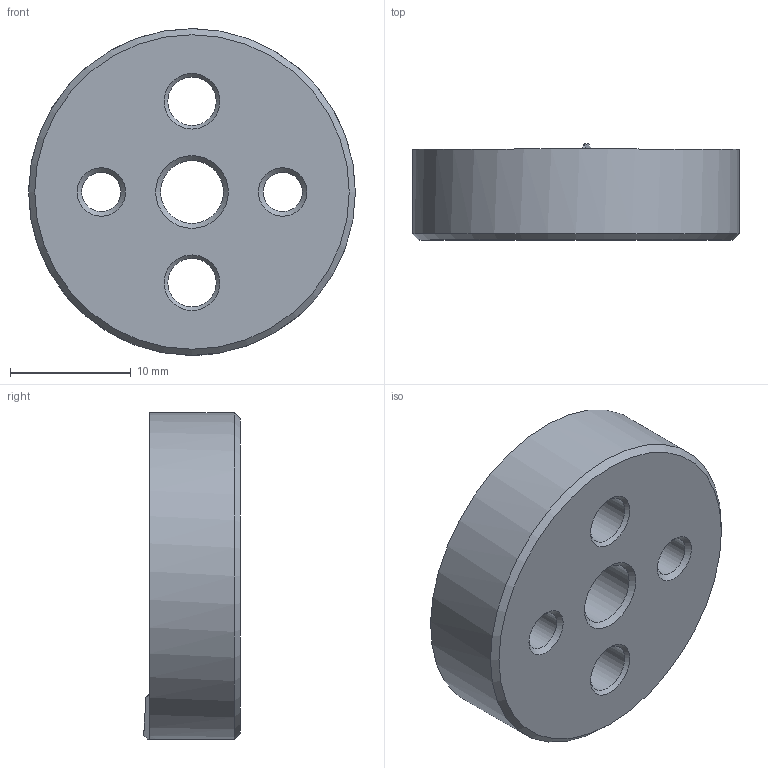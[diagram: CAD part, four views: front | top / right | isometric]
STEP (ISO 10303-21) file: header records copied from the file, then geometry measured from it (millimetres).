
FILE_DESCRIPTION( ( 'STEP AP203' ), '1' );
FILE_NAME( 'C:/Temp/Ganter_Step_05_03_2020/data/3_2/gn187_4/gn187_4_st/Serrated locking plate GN 187.4-27-48-D-ST.stp', '2020-03-13T05:25:46', ( 'License CC BY-ND 4.0' ), ( 'CADENAS' ), ' ', 'PARTsolutions', ' ' );
FILE_SCHEMA( ( 'CONFIG_CONTROL_DESIGN' ) );
Length unit declared in the file: millimetre
Products named in the file (1): _Serrated locking plate GN 187.4-27-48-D-ST
Bounding box: 27 x 7.98 x 27 mm (x, y, z)
Volume: 3567.3 mm3; surface area: 2077.6 mm2
Topology: 1 solids, 1 shells, 31 faces, 77 edges, 48 vertices
Faces by surface type: cone 15, cylinder 9, plane 7
Full cylindrical faces by diameter (mm): 3.242 x2, 4 x2, 5.2 x1, 19.5 x1, 27 x1
Entity records: 960 total; most frequent: CARTESIAN_POINT 241, DIRECTION 146, ORIENTED_EDGE 112, AXIS2_PLACEMENT_3D 70, EDGE_LOOP 59, EDGE_CURVE 56, VERTEX_POINT 45, FACE_OUTER_BOUND 38
